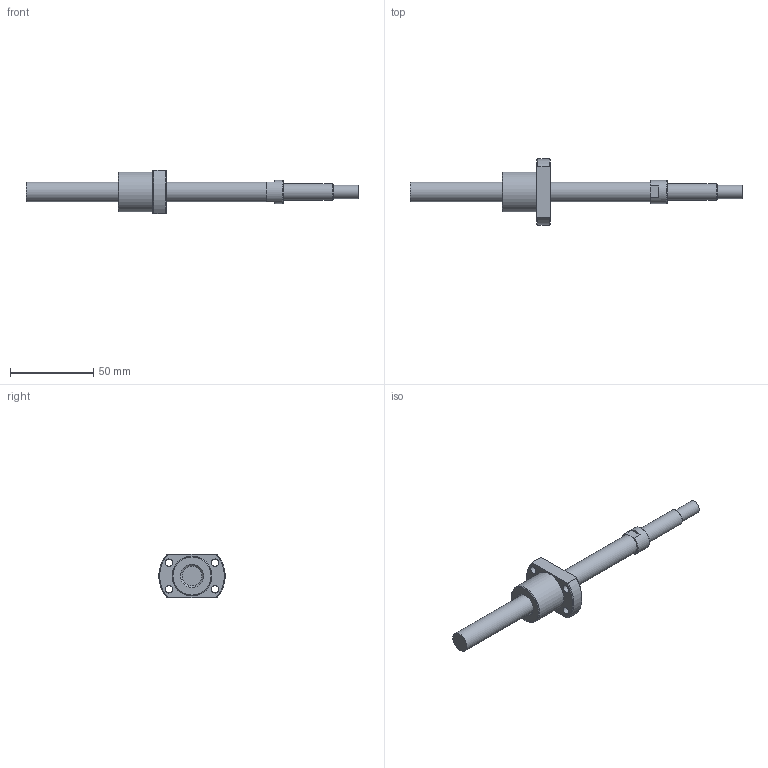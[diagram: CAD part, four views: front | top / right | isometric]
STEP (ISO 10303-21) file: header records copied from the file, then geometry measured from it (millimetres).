
FILE_DESCRIPTION(/* description */ ('STEP AP214'),/* implementation_level */ '2;1');
FILE_NAME(/* name */ 'NSGF1204Z-140R200C3-0-T-S-T-A-(55.5-S)',/* time_stamp */ '2026-08-24T20:18:14+02:00',/* author */ ('License CC BY-ND 4.0'),/* organization */ ('CADENAS'),/* preprocessor_version */ 'ST-DEVELOPER v20',/* originating_system */ 'PARTsolutions',/* authorisation */ ' ');
FILE_SCHEMA (('AUTOMOTIVE_DESIGN {1 0 10303 214 3 1 1}'));
Length unit declared in the file: millimetre
Products named in the file (3): NSGF1204Z-140R200C3-0-T-S-T-A-(55.5-S); NSG1204Z-140R20029_(T-S_T-A_2)-2; NSGF1204Z-1
Assembly tree (2 placements, depth 2):
  NSGF1204Z-140R200C3-0-T-S-T-A-(55.5-S)
    NSG1204Z-140R20029_(T-S_T-A_2)-2
    NSGF1204Z-1
Bounding box: 200 x 39.88 x 26 mm (x, y, z)
Volume: 32483.1 mm3; surface area: 13291.7 mm2
Topology: 2 solids, 2 shells, 38 faces, 85 edges, 55 vertices
Faces by surface type: plane 16, cylinder 13, cone 8, torus 1
Full cylindrical faces by diameter (mm): 4.5 x4, 8 x1, 10 x1, 12 x2, 14 x1, 21 x1, 24 x1
Entity records: 1055 total; most frequent: CARTESIAN_POINT 181, DIRECTION 178, ORIENTED_EDGE 130, AXIS2_PLACEMENT_3D 80, EDGE_LOOP 68, FACE_BOUND 68, EDGE_CURVE 65, VERTEX_POINT 51
